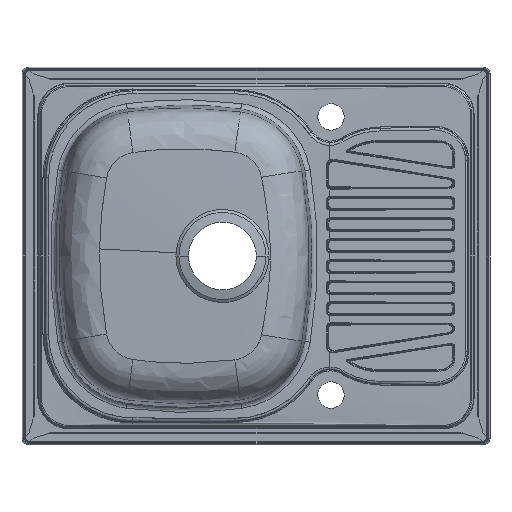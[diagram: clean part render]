
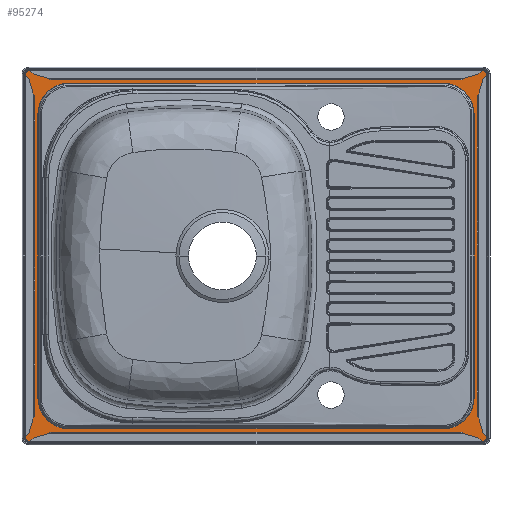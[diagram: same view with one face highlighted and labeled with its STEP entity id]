
A CAD part, front view. The second image highlights one B-rep face of the part: STEP entity #95274.
In plain terms, the highlighted planar face has unit normal (0, -1, 0).
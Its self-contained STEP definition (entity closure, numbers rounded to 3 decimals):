
#1118 = VERTEX_POINT ( 'NONE', #11981 ) ;
#1637 = CARTESIAN_POINT ( 'NONE',  ( -248.5, -0.6, 188.5 ) ) ;
#1844 = CARTESIAN_POINT ( 'NONE',  ( 305.68, -0.6, -241.68 ) ) ;
#2762 = CARTESIAN_POINT ( 'NONE',  ( -289.281, -0.6, 241.68 ) ) ;
#3376 = VERTEX_POINT ( 'NONE', #36655 ) ;
#3862 = CARTESIAN_POINT ( 'NONE',  ( -301.68, -0.6, -241.68 ) ) ;
#3893 = AXIS2_PLACEMENT_3D ( 'NONE', #80141, #16285, #32654 ) ;
#3998 = CIRCLE ( 'NONE', #100024, 4. ) ;
#4221 = VERTEX_POINT ( 'NONE', #18062 ) ;
#4267 = EDGE_CURVE ( 'NONE', #69716, #85024, #66622, .T. ) ;
#5197 = CARTESIAN_POINT ( 'NONE',  ( -301.68, -0.6, 241.68 ) ) ;
#5324 = CARTESIAN_POINT ( 'NONE',  ( 301.68, -0.6, -245.68 ) ) ;
#5915 = LINE ( 'NONE', #86635, #40216 ) ;
#6207 = PLANE ( 'NONE',  #93909 ) ;
#6569 = EDGE_CURVE ( 'NONE', #4221, #3376, #22107, .T. ) ;
#8589 = EDGE_CURVE ( 'NONE', #59942, #69716, #56152, .T. ) ;
#9249 = DIRECTION ( 'NONE',  ( 0., 0., 1. ) ) ;
#11097 = VERTEX_POINT ( 'NONE', #69332 ) ;
#11816 = EDGE_CURVE ( 'NONE', #85024, #42836, #74950, .T. ) ;
#11981 = CARTESIAN_POINT ( 'NONE',  ( -305.68, -0.6, -241.68 ) ) ;
#12061 = DIRECTION ( 'NONE',  ( 0., 0., 1. ) ) ;
#12291 = AXIS2_PLACEMENT_3D ( 'NONE', #1637, #82333, #74945 ) ;
#12346 = LINE ( 'NONE', #37650, #31095 ) ;
#13748 = DIRECTION ( 'NONE',  ( -1., 0., 0. ) ) ;
#14149 = AXIS2_PLACEMENT_3D ( 'NONE', #88873, #40347, #33447 ) ;
#14720 = VERTEX_POINT ( 'NONE', #1844 ) ;
#16285 = DIRECTION ( 'NONE',  ( 0., -1., 0. ) ) ;
#16702 = ORIENTED_EDGE ( 'NONE', *, *, #41713, .F. ) ;
#18062 = CARTESIAN_POINT ( 'NONE',  ( -301.68, -0.6, 245.68 ) ) ;
#18395 = LINE ( 'NONE', #100691, #42116 ) ;
#18894 = ORIENTED_EDGE ( 'NONE', *, *, #29420, .F. ) ;
#20117 = LINE ( 'NONE', #5324, #99588 ) ;
#20751 = ORIENTED_EDGE ( 'NONE', *, *, #63711, .F. ) ;
#22107 = LINE ( 'NONE', #54294, #73027 ) ;
#23083 = CARTESIAN_POINT ( 'NONE',  ( 301.68, -0.6, 241.68 ) ) ;
#23956 = EDGE_CURVE ( 'NONE', #14720, #11097, #61238, .T. ) ;
#24549 = EDGE_CURVE ( 'NONE', #58461, #4221, #3998, .T. ) ;
#24940 = ORIENTED_EDGE ( 'NONE', *, *, #24549, .F. ) ;
#25581 = CARTESIAN_POINT ( 'NONE',  ( -305.68, -0.6, 241.68 ) ) ;
#25945 = DIRECTION ( 'NONE',  ( 1., 0., 0. ) ) ;
#26501 = VERTEX_POINT ( 'NONE', #75549 ) ;
#27486 = CARTESIAN_POINT ( 'NONE',  ( 248.5, -0.6, 229.281 ) ) ;
#29420 = EDGE_CURVE ( 'NONE', #42836, #26501, #89271, .T. ) ;
#29968 = DIRECTION ( 'NONE',  ( 0., 0., 1. ) ) ;
#30212 = VERTEX_POINT ( 'NONE', #51915 ) ;
#30771 = EDGE_CURVE ( 'NONE', #3376, #30212, #47850, .T. ) ;
#31095 = VECTOR ( 'NONE', #101512, 1000. ) ;
#32654 = DIRECTION ( 'NONE',  ( 0., 0., 1. ) ) ;
#32904 = VERTEX_POINT ( 'NONE', #27486 ) ;
#33447 = DIRECTION ( 'NONE',  ( 0., 0., 1. ) ) ;
#34024 = CARTESIAN_POINT ( 'NONE',  ( 248.5, -0.6, -188.5 ) ) ;
#34224 = CIRCLE ( 'NONE', #3893, 40.781 ) ;
#34890 = CARTESIAN_POINT ( 'NONE',  ( 301.68, -0.6, -229.281 ) ) ;
#36655 = CARTESIAN_POINT ( 'NONE',  ( 301.68, -0.6, 245.68 ) ) ;
#37650 = CARTESIAN_POINT ( 'NONE',  ( 301.68, -0.6, 229.281 ) ) ;
#37887 = ORIENTED_EDGE ( 'NONE', *, *, #91254, .F. ) ;
#38390 = CIRCLE ( 'NONE', #61980, 4. ) ;
#39339 = CARTESIAN_POINT ( 'NONE',  ( -289.281, -0.6, -188.5 ) ) ;
#39562 = DIRECTION ( 'NONE',  ( 0., 1., 0. ) ) ;
#40216 = VECTOR ( 'NONE', #56019, 1000. ) ;
#40347 = DIRECTION ( 'NONE',  ( 0., 1., 0. ) ) ;
#40478 = FACE_OUTER_BOUND ( 'NONE', #89203, .T. ) ;
#40804 = CARTESIAN_POINT ( 'NONE',  ( -301.68, -0.6, -245.68 ) ) ;
#41420 = CARTESIAN_POINT ( 'NONE',  ( -248.5, -0.6, -229.281 ) ) ;
#41713 = EDGE_CURVE ( 'NONE', #81115, #53844, #64178, .T. ) ;
#42116 = VECTOR ( 'NONE', #12061, 1000. ) ;
#42836 = VERTEX_POINT ( 'NONE', #41420 ) ;
#43360 = ORIENTED_EDGE ( 'NONE', *, *, #4267, .F. ) ;
#44655 = VERTEX_POINT ( 'NONE', #40804 ) ;
#45006 = DIRECTION ( 'NONE',  ( 0., 1., 0. ) ) ;
#46713 = VECTOR ( 'NONE', #49232, 1000. ) ;
#47850 = CIRCLE ( 'NONE', #14149, 4. ) ;
#49232 = DIRECTION ( 'NONE',  ( 0., 0., -1. ) ) ;
#50137 = ORIENTED_EDGE ( 'NONE', *, *, #90004, .F. ) ;
#50354 = ORIENTED_EDGE ( 'NONE', *, *, #11816, .F. ) ;
#51915 = CARTESIAN_POINT ( 'NONE',  ( 305.68, -0.6, 241.68 ) ) ;
#52779 = EDGE_CURVE ( 'NONE', #30212, #14720, #5915, .T. ) ;
#53844 = VERTEX_POINT ( 'NONE', #91043 ) ;
#54294 = CARTESIAN_POINT ( 'NONE',  ( 301.68, -0.6, 245.68 ) ) ;
#54350 = ORIENTED_EDGE ( 'NONE', *, *, #55994, .F. ) ;
#55270 = DIRECTION ( 'NONE',  ( 0., 1., 0. ) ) ;
#55994 = EDGE_CURVE ( 'NONE', #44655, #1118, #38390, .T. ) ;
#56019 = DIRECTION ( 'NONE',  ( 0., 0., -1. ) ) ;
#56152 = CIRCLE ( 'NONE', #12291, 40.781 ) ;
#58461 = VERTEX_POINT ( 'NONE', #25581 ) ;
#59877 = EDGE_CURVE ( 'NONE', #26501, #81115, #75798, .T. ) ;
#59942 = VERTEX_POINT ( 'NONE', #68828 ) ;
#60595 = DIRECTION ( 'NONE',  ( 0., 1., 0. ) ) ;
#60756 = EDGE_CURVE ( 'NONE', #1118, #58461, #18395, .T. ) ;
#60832 = DIRECTION ( 'NONE',  ( 0., 0., 1. ) ) ;
#61238 = CIRCLE ( 'NONE', #84891, 4. ) ;
#61980 = AXIS2_PLACEMENT_3D ( 'NONE', #3862, #45006, #60832 ) ;
#62268 = DIRECTION ( 'NONE',  ( 0., 0., 1. ) ) ;
#62321 = AXIS2_PLACEMENT_3D ( 'NONE', #34024, #98395, #9249 ) ;
#63364 = DIRECTION ( 'NONE',  ( 0., -1., 0. ) ) ;
#63711 = EDGE_CURVE ( 'NONE', #11097, #44655, #20117, .T. ) ;
#64178 = LINE ( 'NONE', #103228, #92016 ) ;
#66622 = LINE ( 'NONE', #2762, #46713 ) ;
#68828 = CARTESIAN_POINT ( 'NONE',  ( -248.5, -0.6, 229.281 ) ) ;
#69332 = CARTESIAN_POINT ( 'NONE',  ( 301.68, -0.6, -245.68 ) ) ;
#69716 = VERTEX_POINT ( 'NONE', #90580 ) ;
#70192 = CARTESIAN_POINT ( 'NONE',  ( 301.68, -0.6, -241.68 ) ) ;
#71582 = DIRECTION ( 'NONE',  ( 0., 0., 1. ) ) ;
#72676 = FACE_BOUND ( 'NONE', #74776, .T. ) ;
#73027 = VECTOR ( 'NONE', #78540, 1000. ) ;
#73899 = ORIENTED_EDGE ( 'NONE', *, *, #23956, .F. ) ;
#74661 = ORIENTED_EDGE ( 'NONE', *, *, #8589, .F. ) ;
#74776 = EDGE_LOOP ( 'NONE', ( #50354, #43360, #74661, #50137, #37887, #16702, #91712, #18894 ) ) ;
#74945 = DIRECTION ( 'NONE',  ( 0., 0., 1. ) ) ;
#74950 = CIRCLE ( 'NONE', #81712, 40.781 ) ;
#75549 = CARTESIAN_POINT ( 'NONE',  ( 248.5, -0.6, -229.281 ) ) ;
#75798 = CIRCLE ( 'NONE', #62321, 40.781 ) ;
#78158 = ORIENTED_EDGE ( 'NONE', *, *, #52779, .F. ) ;
#78540 = DIRECTION ( 'NONE',  ( 1., 0., 0. ) ) ;
#79809 = ORIENTED_EDGE ( 'NONE', *, *, #60756, .F. ) ;
#80132 = ORIENTED_EDGE ( 'NONE', *, *, #30771, .F. ) ;
#80141 = CARTESIAN_POINT ( 'NONE',  ( 248.5, -0.6, 188.5 ) ) ;
#81115 = VERTEX_POINT ( 'NONE', #81897 ) ;
#81712 = AXIS2_PLACEMENT_3D ( 'NONE', #102419, #63364, #94507 ) ;
#81897 = CARTESIAN_POINT ( 'NONE',  ( 289.281, -0.6, -188.5 ) ) ;
#82333 = DIRECTION ( 'NONE',  ( 0., -1., 0. ) ) ;
#84891 = AXIS2_PLACEMENT_3D ( 'NONE', #70192, #39562, #62268 ) ;
#85024 = VERTEX_POINT ( 'NONE', #39339 ) ;
#85387 = DIRECTION ( 'NONE',  ( 0., 0., 1. ) ) ;
#86635 = CARTESIAN_POINT ( 'NONE',  ( 305.68, -0.6, 241.68 ) ) ;
#88206 = VECTOR ( 'NONE', #25945, 1000. ) ;
#88714 = ORIENTED_EDGE ( 'NONE', *, *, #6569, .F. ) ;
#88873 = CARTESIAN_POINT ( 'NONE',  ( 301.68, -0.6, 241.68 ) ) ;
#89203 = EDGE_LOOP ( 'NONE', ( #73899, #78158, #80132, #88714, #24940, #79809, #54350, #20751 ) ) ;
#89271 = LINE ( 'NONE', #34890, #88206 ) ;
#90004 = EDGE_CURVE ( 'NONE', #32904, #59942, #12346, .T. ) ;
#90580 = CARTESIAN_POINT ( 'NONE',  ( -289.281, -0.6, 188.5 ) ) ;
#91043 = CARTESIAN_POINT ( 'NONE',  ( 289.281, -0.6, 188.5 ) ) ;
#91254 = EDGE_CURVE ( 'NONE', #53844, #32904, #34224, .T. ) ;
#91712 = ORIENTED_EDGE ( 'NONE', *, *, #59877, .F. ) ;
#92016 = VECTOR ( 'NONE', #71582, 1000. ) ;
#93909 = AXIS2_PLACEMENT_3D ( 'NONE', #23083, #55270, #29968 ) ;
#94507 = DIRECTION ( 'NONE',  ( 0., 0., 1. ) ) ;
#95274 = ADVANCED_FACE ( 'NONE', ( #40478, #72676 ), #6207, .F. ) ;
#98395 = DIRECTION ( 'NONE',  ( 0., -1., 0. ) ) ;
#99588 = VECTOR ( 'NONE', #13748, 1000. ) ;
#100024 = AXIS2_PLACEMENT_3D ( 'NONE', #5197, #60595, #85387 ) ;
#100691 = CARTESIAN_POINT ( 'NONE',  ( -305.68, -0.6, 241.68 ) ) ;
#101512 = DIRECTION ( 'NONE',  ( -1., 0., 0. ) ) ;
#102419 = CARTESIAN_POINT ( 'NONE',  ( -248.5, -0.6, -188.5 ) ) ;
#103228 = CARTESIAN_POINT ( 'NONE',  ( 289.281, -0.6, 241.68 ) ) ;
